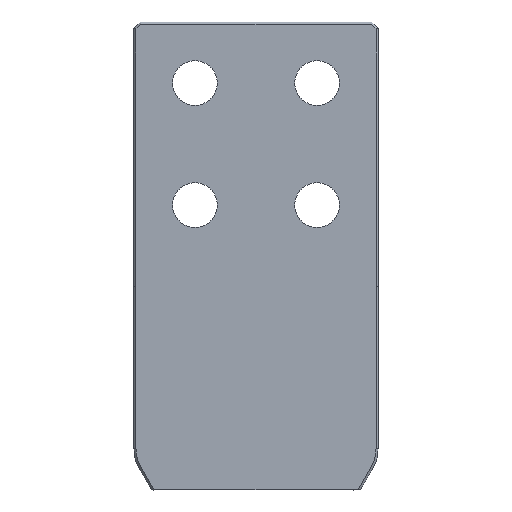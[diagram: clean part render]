
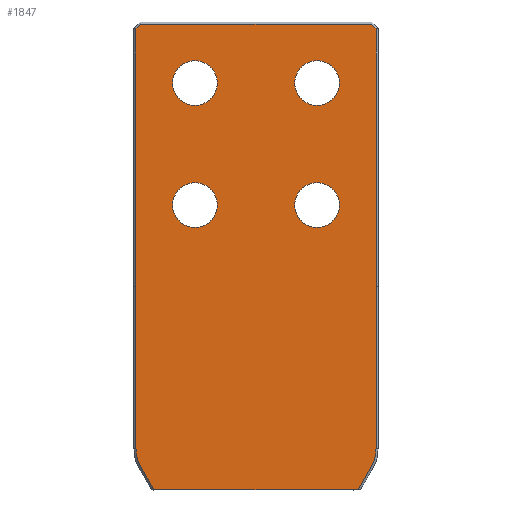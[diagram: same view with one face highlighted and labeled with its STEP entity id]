
A CAD part, front view. The second image highlights one B-rep face of the part: STEP entity #1847.
In plain terms, the highlighted planar face has unit normal (0, -1, 0).
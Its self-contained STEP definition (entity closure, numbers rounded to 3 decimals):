
#126=VERTEX_POINT(' ',#127);
#127=CARTESIAN_POINT('',(30.,-45.,-101.));
#128=VERTEX_POINT(' ',#129);
#129=CARTESIAN_POINT('',(30.,-45.,-79.));
#134=VERTEX_POINT(' ',#135);
#135=CARTESIAN_POINT('',(-30.,-45.,-41.));
#136=VERTEX_POINT(' ',#137);
#137=CARTESIAN_POINT('',(-30.,-45.,-19.));
#142=VERTEX_POINT(' ',#143);
#143=CARTESIAN_POINT('',(30.,-45.,-41.));
#144=VERTEX_POINT(' ',#145);
#145=CARTESIAN_POINT('',(30.,-45.,-19.));
#150=VERTEX_POINT(' ',#151);
#151=CARTESIAN_POINT('',(-30.,-45.,-101.));
#152=VERTEX_POINT(' ',#153);
#153=CARTESIAN_POINT('',(-30.,-45.,-79.));
#236=VERTEX_POINT(' ',#237);
#237=CARTESIAN_POINT('',(50.185,-45.,-230.));
#238=VERTEX_POINT(' ',#239);
#239=CARTESIAN_POINT('',(56.454,-45.,-219.141));
#240=VERTEX_POINT(' ',#241);
#241=CARTESIAN_POINT('',(59.,-45.,-209.641));
#242=VERTEX_POINT(' ',#243);
#243=CARTESIAN_POINT('',(59.,-45.,-130.));
#244=VERTEX_POINT(' ',#245);
#245=CARTESIAN_POINT('',(59.,-45.,-3.414));
#248=VERTEX_POINT(' ',#249);
#249=CARTESIAN_POINT('',(56.586,-45.,-1.));
#252=VERTEX_POINT(' ',#253);
#253=CARTESIAN_POINT('',(-56.586,-45.,-1.));
#256=VERTEX_POINT(' ',#257);
#257=CARTESIAN_POINT('',(-59.,-45.,-3.414));
#266=VERTEX_POINT(' ',#267);
#267=CARTESIAN_POINT('',(-50.185,-45.,-230.));
#268=VERTEX_POINT(' ',#269);
#269=CARTESIAN_POINT('',(-59.,-45.,-130.));
#270=VERTEX_POINT(' ',#271);
#271=CARTESIAN_POINT('',(-59.,-45.,-209.641));
#272=VERTEX_POINT(' ',#273);
#273=CARTESIAN_POINT('',(-56.454,-45.,-219.141));
#274=CIRCLE('',#275,11.);
#275=AXIS2_PLACEMENT_3D('',#276,#277,#278);
#276=CARTESIAN_POINT('',(30.,-45.,-90.));
#277=DIRECTION('',(0.,-1.,0.));
#278=DIRECTION('',(-1.,0.,0.));
#279=EDGE_CURVE(' ',#126,#128,#274,.T.);
#296=CIRCLE('',#297,11.);
#297=AXIS2_PLACEMENT_3D('',#298,#299,#300);
#298=CARTESIAN_POINT('',(30.,-45.,-90.));
#299=DIRECTION('',(0.,-1.,0.));
#300=DIRECTION('',(1.,0.,0.));
#301=EDGE_CURVE(' ',#128,#126,#296,.T.);
#308=CIRCLE('',#309,11.);
#309=AXIS2_PLACEMENT_3D('',#310,#311,#312);
#310=CARTESIAN_POINT('',(-30.,-45.,-30.));
#311=DIRECTION('',(0.,-1.,0.));
#312=DIRECTION('',(-1.,0.,0.));
#313=EDGE_CURVE(' ',#134,#136,#308,.T.);
#330=CIRCLE('',#331,11.);
#331=AXIS2_PLACEMENT_3D('',#332,#333,#334);
#332=CARTESIAN_POINT('',(-30.,-45.,-30.));
#333=DIRECTION('',(0.,-1.,0.));
#334=DIRECTION('',(1.,0.,0.));
#335=EDGE_CURVE(' ',#136,#134,#330,.T.);
#342=CIRCLE('',#343,11.);
#343=AXIS2_PLACEMENT_3D('',#344,#345,#346);
#344=CARTESIAN_POINT('',(30.,-45.,-30.));
#345=DIRECTION('',(0.,1.,0.));
#346=DIRECTION('',(-1.,0.,0.));
#347=EDGE_CURVE(' ',#142,#144,#342,.F.);
#364=CIRCLE('',#365,11.);
#365=AXIS2_PLACEMENT_3D('',#366,#367,#368);
#366=CARTESIAN_POINT('',(30.,-45.,-30.));
#367=DIRECTION('',(0.,1.,0.));
#368=DIRECTION('',(1.,0.,0.));
#369=EDGE_CURVE(' ',#144,#142,#364,.F.);
#376=CIRCLE('',#377,11.);
#377=AXIS2_PLACEMENT_3D('',#378,#379,#380);
#378=CARTESIAN_POINT('',(-30.,-45.,-90.));
#379=DIRECTION('',(0.,1.,0.));
#380=DIRECTION('',(-1.,0.,0.));
#381=EDGE_CURVE(' ',#150,#152,#376,.F.);
#398=CIRCLE('',#399,11.);
#399=AXIS2_PLACEMENT_3D('',#400,#401,#402);
#400=CARTESIAN_POINT('',(-30.,-45.,-90.));
#401=DIRECTION('',(0.,1.,0.));
#402=DIRECTION('',(1.,0.,0.));
#403=EDGE_CURVE(' ',#152,#150,#398,.F.);
#795=LINE('',#796,#797);
#796=CARTESIAN_POINT('',(56.454,-45.,-219.141));
#797=VECTOR('',#798,1.);
#798=DIRECTION('',(-0.5,0.,-0.866));
#799=EDGE_CURVE(' ',#238,#236,#795,.T.);
#805=CIRCLE('',#806,19.);
#806=AXIS2_PLACEMENT_3D('',#807,#808,#809);
#807=CARTESIAN_POINT('',(40.,-45.,-209.641));
#808=DIRECTION('',(0.,1.,0.));
#809=DIRECTION('',(-0.966,0.,0.259));
#810=EDGE_CURVE(' ',#240,#238,#805,.T.);
#816=LINE('',#817,#818);
#817=CARTESIAN_POINT('',(59.,-45.,-130.));
#818=VECTOR('',#819,1.);
#819=DIRECTION('',(0.,0.,-1.));
#820=EDGE_CURVE(' ',#242,#240,#816,.T.);
#826=LINE('',#827,#828);
#827=CARTESIAN_POINT('',(59.,-45.,2.657));
#828=VECTOR('',#829,1.);
#829=DIRECTION('',(0.,0.,-1.));
#830=EDGE_CURVE(' ',#244,#242,#826,.T.);
#846=LINE('',#847,#848);
#847=CARTESIAN_POINT('',(52.293,-45.,3.293));
#848=VECTOR('',#849,1.);
#849=DIRECTION('',(0.707,0.,-0.707));
#850=EDGE_CURVE(' ',#248,#244,#846,.T.);
#866=LINE('',#867,#868);
#867=CARTESIAN_POINT('',(-62.657,-45.,-1.));
#868=VECTOR('',#869,1.);
#869=DIRECTION('',(1.,0.,0.));
#870=EDGE_CURVE(' ',#252,#248,#866,.T.);
#886=LINE('',#887,#888);
#887=CARTESIAN_POINT('',(-63.293,-45.,-7.707));
#888=VECTOR('',#889,1.);
#889=DIRECTION('',(0.707,0.,0.707));
#890=EDGE_CURVE(' ',#256,#252,#886,.T.);
#937=LINE('',#938,#939);
#938=CARTESIAN_POINT('',(-60.12,-45.,-230.));
#939=VECTOR('',#940,1.);
#940=DIRECTION('',(1.,0.,0.));
#941=EDGE_CURVE(' ',#236,#266,#937,.F.);
#942=LINE('',#943,#944);
#943=CARTESIAN_POINT('',(-59.,-45.,-130.));
#944=VECTOR('',#945,1.);
#945=DIRECTION('',(0.,0.,1.));
#946=EDGE_CURVE(' ',#268,#256,#942,.T.);
#947=LINE('',#948,#949);
#948=CARTESIAN_POINT('',(-59.,-45.,-209.641));
#949=VECTOR('',#950,1.);
#950=DIRECTION('',(0.,0.,1.));
#951=EDGE_CURVE(' ',#270,#268,#947,.T.);
#952=CIRCLE('',#953,19.);
#953=AXIS2_PLACEMENT_3D('',#954,#955,#956);
#954=CARTESIAN_POINT('',(-40.,-45.,-209.641));
#955=DIRECTION('',(0.,1.,0.));
#956=DIRECTION('',(0.966,0.,0.259));
#957=EDGE_CURVE(' ',#272,#270,#952,.T.);
#958=LINE('',#959,#960);
#959=CARTESIAN_POINT('',(-47.645,-45.,-234.399));
#960=VECTOR('',#961,1.);
#961=DIRECTION('',(-0.5,0.,0.866));
#962=EDGE_CURVE(' ',#266,#272,#958,.T.);
#1812=ORIENTED_EDGE('',*,*,#946,.F.);
#1813=ORIENTED_EDGE('',*,*,#951,.F.);
#1814=ORIENTED_EDGE('',*,*,#957,.F.);
#1815=ORIENTED_EDGE('',*,*,#962,.F.);
#1816=ORIENTED_EDGE('',*,*,#941,.F.);
#1817=ORIENTED_EDGE('',*,*,#799,.F.);
#1818=ORIENTED_EDGE('',*,*,#810,.F.);
#1819=ORIENTED_EDGE('',*,*,#820,.F.);
#1820=ORIENTED_EDGE('',*,*,#830,.F.);
#1821=ORIENTED_EDGE('',*,*,#850,.F.);
#1822=ORIENTED_EDGE('',*,*,#870,.F.);
#1823=ORIENTED_EDGE('',*,*,#890,.F.);
#1824=EDGE_LOOP('',(#1812,#1813,#1814,#1815,#1816,#1817,#1818,#1819,#1820,#1821,#1822,#1823));
#1825=FACE_OUTER_BOUND('',#1824,.T.);
#1826=ORIENTED_EDGE('',*,*,#403,.F.);
#1827=ORIENTED_EDGE('',*,*,#381,.F.);
#1828=EDGE_LOOP('',(#1826,#1827));
#1829=FACE_BOUND('',#1828,.T.);
#1830=ORIENTED_EDGE('',*,*,#369,.F.);
#1831=ORIENTED_EDGE('',*,*,#347,.F.);
#1832=EDGE_LOOP('',(#1830,#1831));
#1833=FACE_BOUND('',#1832,.T.);
#1834=ORIENTED_EDGE('',*,*,#335,.F.);
#1835=ORIENTED_EDGE('',*,*,#313,.F.);
#1836=EDGE_LOOP('',(#1834,#1835));
#1837=FACE_BOUND('',#1836,.T.);
#1838=ORIENTED_EDGE('',*,*,#301,.F.);
#1839=ORIENTED_EDGE('',*,*,#279,.F.);
#1840=EDGE_LOOP('',(#1838,#1839));
#1841=FACE_BOUND('',#1840,.T.);
#1842=PLANE('',#1843);
#1843=AXIS2_PLACEMENT_3D('',#1844,#1845,#1846);
#1844=CARTESIAN_POINT('',(0.,-45.,0.));
#1845=DIRECTION('',(0.,-1.,0.));
#1846=DIRECTION('',(0.,0.,-1.));
#1847=ADVANCED_FACE('',(#1825,#1829,#1833,#1837,#1841),#1842,.T.);
